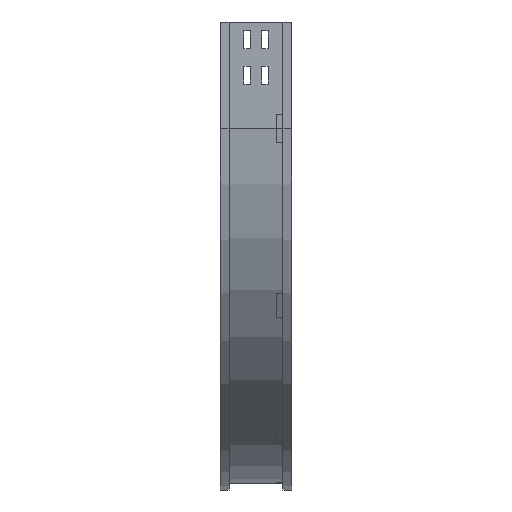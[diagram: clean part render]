
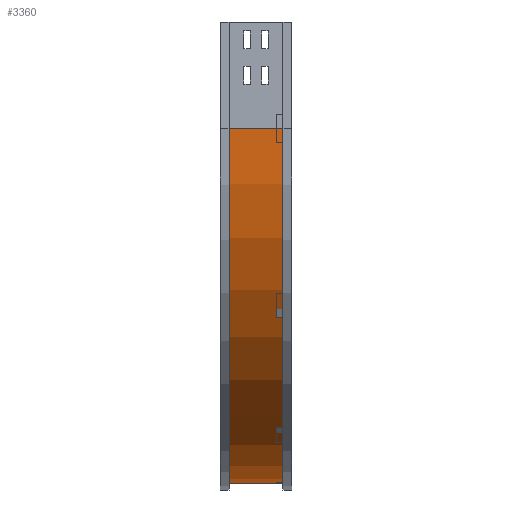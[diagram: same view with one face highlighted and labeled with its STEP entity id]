
A CAD part, left-side view. The second image highlights one B-rep face of the part: STEP entity #3360.
In plain terms, the highlighted cylindrical face has radius 500 mm (diameter 1000 mm), a partial arc.
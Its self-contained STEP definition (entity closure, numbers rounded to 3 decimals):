
#20 = VERTEX_POINT ( 'NONE', #2058 ) ;
#69 = CARTESIAN_POINT ( 'NONE',  ( 509., 0., -150. ) ) ;
#193 = EDGE_CURVE ( 'NONE', #1528, #20, #751, .T. ) ;
#411 = FACE_OUTER_BOUND ( 'NONE', #2819, .T. ) ;
#751 = LINE ( 'NONE', #3601, #4472 ) ;
#963 = EDGE_CURVE ( 'NONE', #2586, #1528, #4191, .T. ) ;
#1045 = CIRCLE ( 'NONE', #3367, 500. ) ;
#1162 = VERTEX_POINT ( 'NONE', #3341 ) ;
#1340 = VECTOR ( 'NONE', #3315, 1000. ) ;
#1514 = CARTESIAN_POINT ( 'NONE',  ( 9., 88., -150. ) ) ;
#1528 = VERTEX_POINT ( 'NONE', #3578 ) ;
#1928 = LINE ( 'NONE', #2918, #1340 ) ;
#2058 = CARTESIAN_POINT ( 'NONE',  ( 509., 12., -650. ) ) ;
#2134 = CYLINDRICAL_SURFACE ( 'NONE', #4250, 500. ) ;
#2198 = DIRECTION ( 'NONE',  ( -1., 0., 0. ) ) ;
#2274 = DIRECTION ( 'NONE',  ( -1., 0., 0. ) ) ;
#2338 = ORIENTED_EDGE ( 'NONE', *, *, #193, .T. ) ;
#2586 = VERTEX_POINT ( 'NONE', #1514 ) ;
#2646 = AXIS2_PLACEMENT_3D ( 'NONE', #3864, #3930, #2198 ) ;
#2670 = ORIENTED_EDGE ( 'NONE', *, *, #3110, .F. ) ;
#2819 = EDGE_LOOP ( 'NONE', ( #2670, #3194, #4499, #2338 ) ) ;
#2831 = DIRECTION ( 'NONE',  ( 0., -1., 0. ) ) ;
#2918 = CARTESIAN_POINT ( 'NONE',  ( 9., 12., -150. ) ) ;
#3110 = EDGE_CURVE ( 'NONE', #1162, #20, #1045, .T. ) ;
#3194 = ORIENTED_EDGE ( 'NONE', *, *, #3810, .F. ) ;
#3315 = DIRECTION ( 'NONE',  ( 0., -1., 0. ) ) ;
#3341 = CARTESIAN_POINT ( 'NONE',  ( 9., 12., -150. ) ) ;
#3360 = ADVANCED_FACE ( 'NONE', ( #411 ), #2134, .T. ) ;
#3367 = AXIS2_PLACEMENT_3D ( 'NONE', #4447, #4009, #2274 ) ;
#3536 = DIRECTION ( 'NONE',  ( 0., -1., 0. ) ) ;
#3578 = CARTESIAN_POINT ( 'NONE',  ( 509., 88., -650. ) ) ;
#3601 = CARTESIAN_POINT ( 'NONE',  ( 509., 12., -650. ) ) ;
#3810 = EDGE_CURVE ( 'NONE', #2586, #1162, #1928, .T. ) ;
#3864 = CARTESIAN_POINT ( 'NONE',  ( 509., 88., -150. ) ) ;
#3930 = DIRECTION ( 'NONE',  ( 0., -1., 0. ) ) ;
#4009 = DIRECTION ( 'NONE',  ( 0., -1., 0. ) ) ;
#4191 = CIRCLE ( 'NONE', #2646, 500. ) ;
#4239 = DIRECTION ( 'NONE',  ( 0., 0., -1. ) ) ;
#4250 = AXIS2_PLACEMENT_3D ( 'NONE', #69, #2831, #4239 ) ;
#4447 = CARTESIAN_POINT ( 'NONE',  ( 509., 12., -150. ) ) ;
#4472 = VECTOR ( 'NONE', #3536, 1000. ) ;
#4499 = ORIENTED_EDGE ( 'NONE', *, *, #963, .T. ) ;
